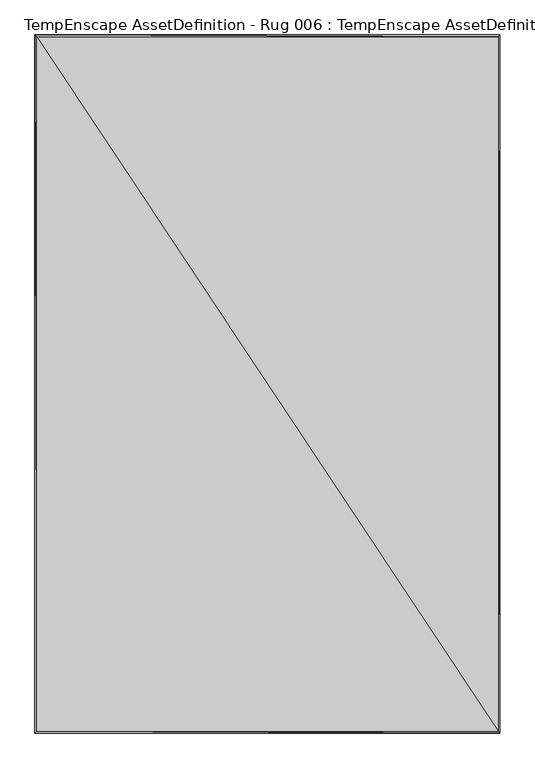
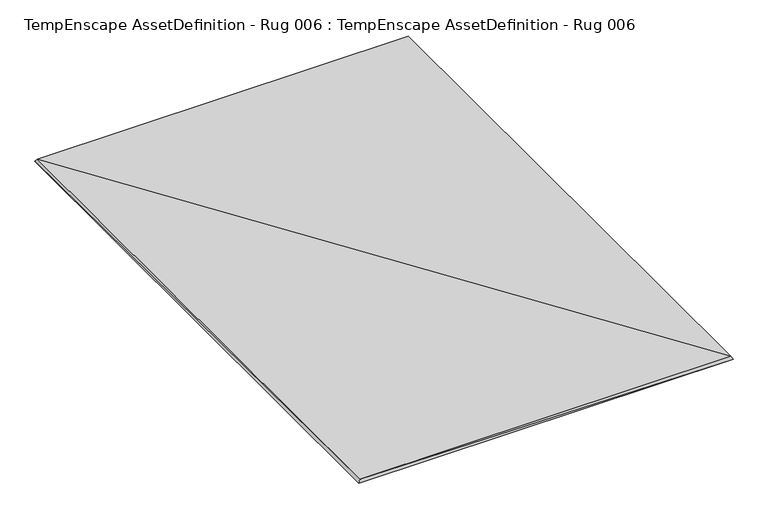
"""IFC4 building model written with IfcOpenShell, lengths in millimetres: geographic element geometry, TempEnscape AssetDefinition - Rug 006 : TempEnscape AssetDefinition - Rug 006."""

from ifc_helpers import new_model, si_unit, origin, place, context, project, spatial, faceted_brep, source, transform, mapped, element, save


def tempenscape_assetdefinition_rug_006_tempenscape_96f3dc94(model_context):
    return source(origin(), model_context, "Body", "Brep", [
        faceted_brep([(1297.5813543, 1951.4153786, 17.0), (1297.5813543, -1951.4153786, 16.9993728), (1307.6682045, 1961.5023068, 0.0003138), (-1297.5813543, -1951.4153786, 16.9993728), (-1297.5813543, 1951.4153786, 17.0), (-1307.6682045, -1961.5023068, -0.0003138), (-1307.6682045, 1961.5023068, 0.0003138), (1307.6682045, -1961.5023068, -0.0003138)], [[[0, 1, 2]], [[3, 1, 4]], [[5, 3, 6]], [[4, 0, 6]], [[1, 3, 7]], [[2, 7, 6]], [[2, 1, 7]], [[4, 1, 0]], [[6, 3, 4]], [[6, 0, 2]], [[7, 3, 5]], [[6, 7, 5]]]),
    ])


if __name__ == "__main__":
    model = new_model("IFC4")
    model_context = context("Model", 3, world=origin())
    ifc_project = project(units=[si_unit("LENGTHUNIT", "METRE", prefix="MILLI")], contexts=[model_context])
    site = spatial("IfcSite", under=ifc_project)
    building = spatial("IfcBuilding", under=site)
    placement = place(None, origin())
    tempenscape_assetdefinition_rug_006_tempenscape_shape = tempenscape_assetdefinition_rug_006_tempenscape_96f3dc94(model_context)
    element("IfcGeographicElement", 1, ObjectType="TempEnscape AssetDefinition - Rug 006 : TempEnscape AssetDefinition - Rug 006", at=placement, inside=building, context=model_context, shape_type="MappedRepresentation", body=[
        mapped(tempenscape_assetdefinition_rug_006_tempenscape_shape, transform((0.0, 0.0, 0.0), x_axis=(1.0, 0.0, 0.0), y_axis=(0.0, 1.0, 0.0), z_axis=(0.0, 0.0, 1.0))),
    ])
    save(model, "model.ifc")
